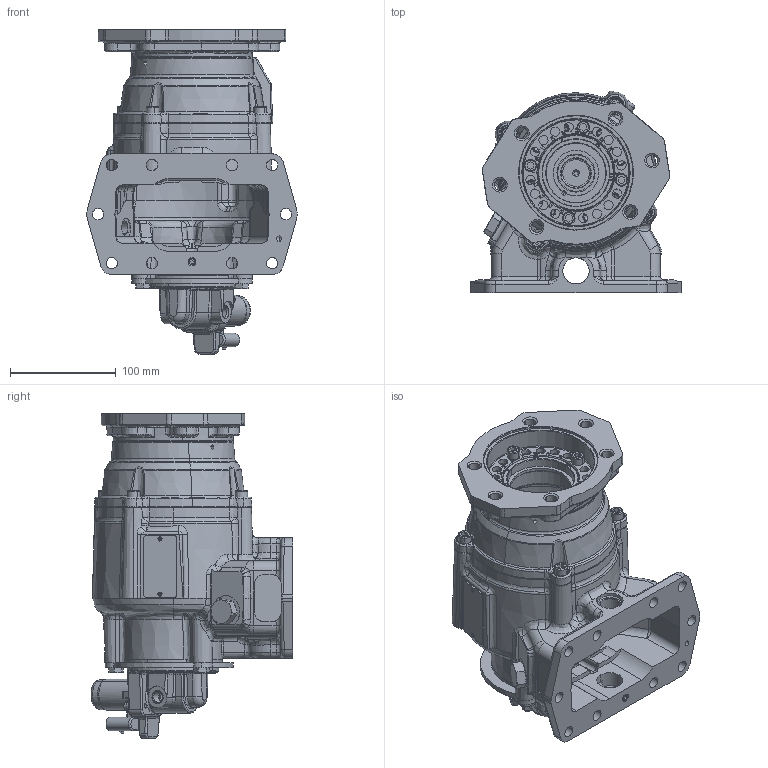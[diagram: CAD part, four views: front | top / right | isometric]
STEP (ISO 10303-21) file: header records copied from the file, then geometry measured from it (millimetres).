
FILE_DESCRIPTION (( 'STEP AP203' ), '1' );
FILE_NAME ('A20-A10XX-HX5BBPX.STEP', '2023-03-28T20:05:50', ( '' ), ( '' ), 'SwSTEP 2.0', 'SolidWorks 2021', '' );
FILE_SCHEMA (( 'CONFIG_CONTROL_DESIGN' ));
Products named in the file (5): SC-249_19T36588; 15T43431_FOR CLAMPS; A20-SAE-B-2&4B-Flange_14T65388DB2.step; A20-A10XX-HX5BBPX; A20-5_Arrangement.step
Assembly tree (7 placements, depth 2):
  A20-A10XX-HX5BBPX
    A20-5_Arrangement.step
    A20-SAE-B-2&4B-Flange_14T65388DB2.step
    SC-249_19T36588  x4
    15T43431_FOR CLAMPS
Bounding box: 199.82 x 191.39 x 307.7 mm (x, y, z)
Volume: 1607439.5 mm3; surface area: 461312.7 mm2
Topology: 39 solids, 39 shells, 4446 faces, 11413 edges, 7102 vertices
Faces by surface type: plane 1598, bspline 1334, cylinder 798, cone 400, torus 278, sphere 38
Entity records: 207053 total; most frequent: CARTESIAN_POINT 108762, ORIENTED_EDGE 22286, DIRECTION 17414, EDGE_CURVE 11143, VERTEX_POINT 7009, AXIS2_PLACEMENT_3D 6153, VECTOR 5108, LINE 5108
